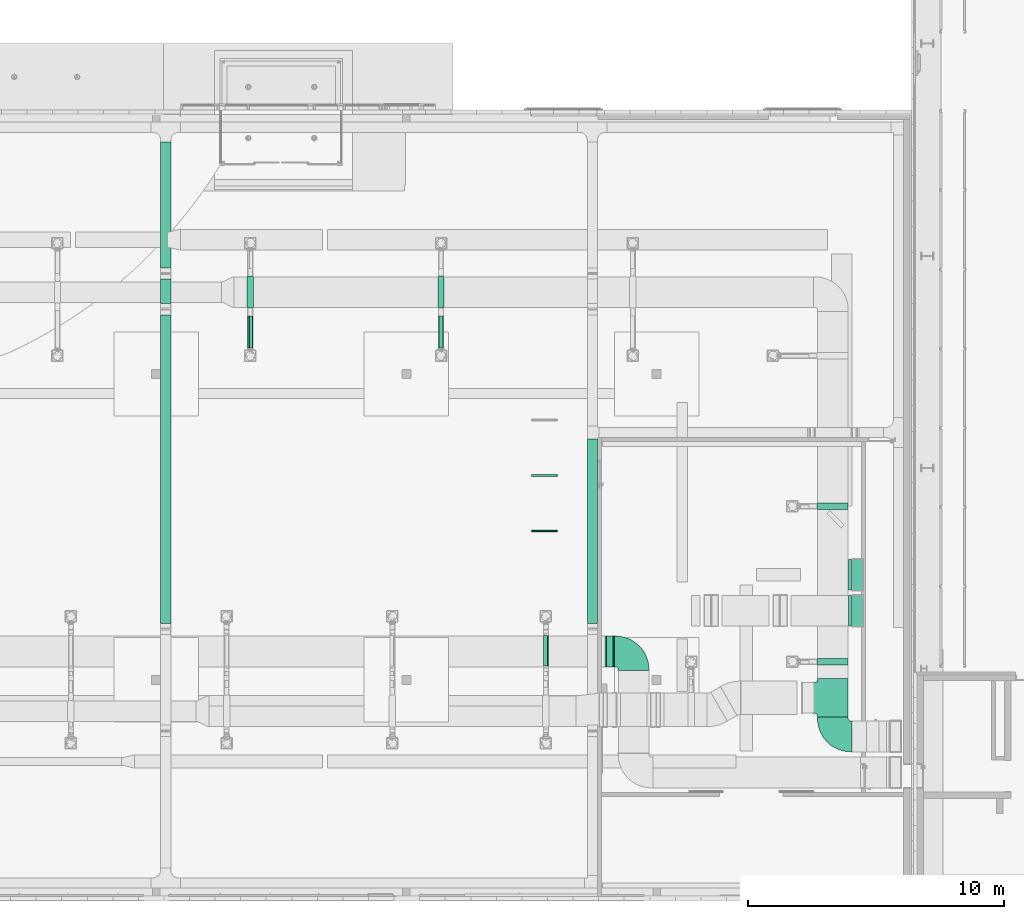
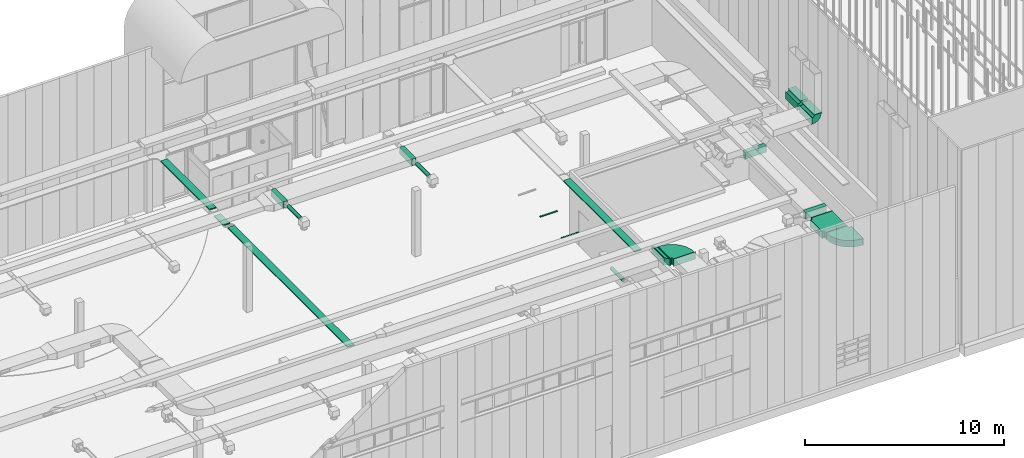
# One storey, part 256 of 302: 10 flow fittings, 7 flow segments, 2 flow terminals.
"""IFC2X3 building model written with IfcOpenShell, lengths in metres."""

from ifc_helpers import new_model, entity, si_unit, converted_unit, derived_unit, direction, frame, frame_2d, origin, origin_2d_with_axis, place, context, subcontext, project, spatial, polyline, circle_curve, parameter, trimmed, segment, composite_curve, rectangle, circle, outline, extrude, source, transform, mapped, material, material_list, type_object, type_shapes, element, save


model = new_model("IFC2X3")

# Units and contexts
model_context = context("Model", 3, precision=1e-05, world=origin(), true_north=direction((6.12303176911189e-17, 1.0)))
body_context = subcontext(model_context, "Body", "Model", "MODEL_VIEW")
ifc_project = project(units=[si_unit("LENGTHUNIT", "METRE"), si_unit("AREAUNIT", "SQUARE_METRE"), si_unit("VOLUMEUNIT", "CUBIC_METRE"), converted_unit("PLANEANGLEUNIT", "DEGREE", entity("IfcRatioMeasure", 0.0174532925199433), si_unit("PLANEANGLEUNIT", "RADIAN"), dimensions=[0, 0, 0, 0, 0, 0, 0]), si_unit("MASSUNIT", "GRAM", prefix="KILO"), derived_unit("MASSDENSITYUNIT", [(si_unit("MASSUNIT", "GRAM", prefix="KILO"), 1), (si_unit("LENGTHUNIT", "METRE"), -3)]), derived_unit("MOMENTOFINERTIAUNIT", [(si_unit("LENGTHUNIT", "METRE"), 4)]), si_unit("TIMEUNIT", "SECOND"), si_unit("FREQUENCYUNIT", "HERTZ"), si_unit("THERMODYNAMICTEMPERATUREUNIT", "DEGREE_CELSIUS"), derived_unit("THERMALTRANSMITTANCEUNIT", [(si_unit("MASSUNIT", "GRAM", prefix="KILO"), 1), (si_unit("THERMODYNAMICTEMPERATUREUNIT", "KELVIN"), -1), (si_unit("TIMEUNIT", "SECOND"), -3)]), derived_unit("VOLUMETRICFLOWRATEUNIT", [(si_unit("LENGTHUNIT", "METRE"), 3), (si_unit("TIMEUNIT", "SECOND"), -1)]), si_unit("ELECTRICCURRENTUNIT", "AMPERE"), si_unit("ELECTRICVOLTAGEUNIT", "VOLT"), si_unit("POWERUNIT", "WATT"), si_unit("FORCEUNIT", "NEWTON", prefix="KILO"), si_unit("ILLUMINANCEUNIT", "LUX"), si_unit("LUMINOUSFLUXUNIT", "LUMEN"), si_unit("LUMINOUSINTENSITYUNIT", "CANDELA"), derived_unit("USERDEFINED", [(si_unit("MASSUNIT", "GRAM", prefix="KILO"), -1), (si_unit("LENGTHUNIT", "METRE"), -2), (si_unit("TIMEUNIT", "SECOND"), 3), (si_unit("LUMINOUSFLUXUNIT", "LUMEN"), 1)]), derived_unit("LINEARVELOCITYUNIT", [(si_unit("LENGTHUNIT", "METRE"), 1), (si_unit("TIMEUNIT", "SECOND"), -1)]), si_unit("PRESSUREUNIT", "PASCAL"), derived_unit("USERDEFINED", [(si_unit("LENGTHUNIT", "METRE"), -2), (si_unit("MASSUNIT", "GRAM", prefix="KILO"), 1), (si_unit("TIMEUNIT", "SECOND"), -2)]), derived_unit("LINEARFORCEUNIT", [(si_unit("MASSUNIT", "GRAM", prefix="KILO"), 1), (si_unit("LENGTHUNIT", "METRE"), 1), (si_unit("TIMEUNIT", "SECOND"), -2), (si_unit("LENGTHUNIT", "METRE"), -1)]), derived_unit("PLANARFORCEUNIT", [(si_unit("MASSUNIT", "GRAM", prefix="KILO"), 1), (si_unit("LENGTHUNIT", "METRE"), 1), (si_unit("TIMEUNIT", "SECOND"), -2), (si_unit("LENGTHUNIT", "METRE"), -2)])], contexts=[model_context])

# Site, building, storey
site_placement = place(None, origin())
site = spatial("IfcSite", under=ifc_project, at=site_placement, Name="Default", CompositionType="ELEMENT")
building_placement = place(site_placement, origin())
building = spatial("IfcBuilding", under=site, at=building_placement, CompositionType="ELEMENT")
storey_placement = place(building_placement, frame((0.0, 0.0, -1.3)))
storey = spatial("IfcBuildingStorey", under=building, at=storey_placement, Name="00_EG", CompositionType="ELEMENT", Elevation=-1.3)

# Flow terminals
ifc_material_1 = material(Name="Zumtobel_Metal_White")
light_fixture_type = type_object("IfcLightFixtureType", Name="Zumtobel TECTON C (Lamp & Reflector):TECTON C LED L1000", PredefinedType="NOTDEFINED", material=ifc_material_1)
shared_shape_1 = source(origin(), body_context, "Body", "SweptSolid", [
    extrude(outline(polyline([(-0.0195125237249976, 0.0249999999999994), (-0.0195125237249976, -0.0250000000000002), (-0.00676730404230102, -0.0250000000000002), (-0.00676730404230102, -0.0300000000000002), (0.00923269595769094, -0.0300000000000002), (0.00923269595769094, -0.0280000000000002), (0.00723269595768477, -0.0270000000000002), (0.00723269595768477, -0.00749999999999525), (0.000232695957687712, 0.0), (0.00723269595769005, 0.0074999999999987), (0.00723269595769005, 0.0269999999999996), (0.00923269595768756, 0.0280000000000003), (0.00923269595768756, 0.0299999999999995), (-0.00676730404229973, 0.0299999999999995), (-0.00676730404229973, 0.0249999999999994), (-0.0195125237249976, 0.0249999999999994)])), frame((-0.574924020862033, -0.218643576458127, -0.51951252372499), z_axis=(-1.0, 0.0, 0.0), x_axis=(0.0, 0.0, -1.0)), (0.0, 0.0, -1.0), 1.0),
])
type_shapes(light_fixture_type, [shared_shape_1])
for number, where in (
    (1, (-221.887546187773, 31.6491312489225, 4.79999999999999)),
    (2, (-221.887546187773, 29.4880464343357, 4.79999999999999)),
):
    element("IfcFlowTerminal", number, at=place(storey_placement, frame(where)), inside=storey, type_object=light_fixture_type, material=ifc_material_1, Name="Zumtobel TECTON C (Lamp & Reflector):TECTON C LED L1000", ObjectType="Zumtobel TECTON C (Lamp & Reflector):TECTON C LED L1000", context=body_context, shape_type="MappedRepresentation", body=[
        mapped(shared_shape_1, transform((0.0, 0.0, 0.0), scale=1.0)),
    ])

# Flow segments
cable_carrier_segment_type = type_object("IfcCableCarrierSegmentType", Name="Kabeltrasse mit Formteilen:Channel Cable Tray", PredefinedType="CABLETRAYSEGMENT")
flow_segment_1_placement = place(storey_placement, origin())
element("IfcFlowSegment", 3, at=flow_segment_1_placement, inside=storey, type_object=cable_carrier_segment_type, Name="Kabeltrasse mit Formteilen:Channel Cable Tray", ObjectType="Kabeltrasse mit Formteilen:Channel Cable Tray", context=body_context, shape_type="SweptSolid", body=[
    extrude(rectangle(XDim=7.19999488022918, YDim=0.399999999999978, at=frame_2d((-2.22044604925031e-15, 0.0), x_axis=(1.0, 0.0))), frame((-220.085111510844, 29.2590915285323, 4.82), z_axis=(0.0, 0.0, 1.0), x_axis=(0.0, 1.0, 0.0)), (0.0, 0.0, 1.0), 0.0600000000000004),
])
flow_segment_2_placement = place(storey_placement, origin())
element("IfcFlowSegment", 4, at=flow_segment_2_placement, inside=storey, type_object=cable_carrier_segment_type, Name="Kabeltrasse mit Formteilen:Channel Cable Tray", ObjectType="Kabeltrasse mit Formteilen:Channel Cable Tray", context=body_context, shape_type="SweptSolid", body=[
    extrude(rectangle(XDim=12.0644111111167, YDim=0.399999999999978, at=frame_2d((2.22044604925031e-15, 0.0), x_axis=(1.0, 0.0))), frame((-236.772611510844, 31.6912996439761, 4.81999999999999), z_axis=(0.0, 0.0, 1.0), x_axis=(0.0, -1.0, 0.0)), (0.0, 0.0, 1.0), 0.0600000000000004),
])
flow_segment_3_placement = place(storey_placement, origin())
element("IfcFlowSegment", 5, at=flow_segment_3_placement, inside=storey, type_object=cable_carrier_segment_type, Name="Kabeltrasse mit Formteilen:Channel Cable Tray", ObjectType="Kabeltrasse mit Formteilen:Channel Cable Tray", context=body_context, shape_type="SweptSolid", body=[
    extrude(rectangle(XDim=4.92184122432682, YDim=0.399999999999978, at=frame_2d((0.0, 1.73194791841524e-14), x_axis=(1.0, 0.0))), frame((-236.772611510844, 42.0171683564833, 4.82), z_axis=(0.0, 0.0, 1.0), x_axis=(0.0, -1.0, 0.0)), (0.0, 0.0, 1.0), 0.0599999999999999),
])
flow_segment_4_placement = place(storey_placement, origin())
element("IfcFlowSegment", 6, at=flow_segment_4_placement, inside=storey, type_object=cable_carrier_segment_type, Name="Kabeltrasse mit Formteilen:Channel Cable Tray", ObjectType="Kabeltrasse mit Formteilen:Channel Cable Tray", context=body_context, shape_type="SweptSolid", body=[
    extrude(rectangle(XDim=0.948780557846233, YDim=0.399999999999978, at=origin_2d_with_axis()), frame((-236.772611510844, 38.6398764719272, 4.69999999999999), z_axis=(0.0, 0.0, 1.0), x_axis=(0.0, -1.0, 0.0)), (0.0, 0.0, 1.0), 0.0600000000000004),
])

# Flow fittings
ifc_material_2 = material(Name="<Unnamed>")
ifc_material_list_1 = material_list([ifc_material_2, ifc_material_2, ifc_material_2, ifc_material_2, ifc_material_2])
ifc_material_list_2 = material_list([ifc_material_2, ifc_material_2, ifc_material_2, ifc_material_2, ifc_material_2])
duct_fitting_type_1 = type_object("IfcDuctFittingType", Name="Bogen rechteck BS:Standard", PredefinedType="NOTDEFINED", material=ifc_material_list_2)
shared_shape_2 = source(origin(), body_context, "Body", "SweptSolid", [
    extrude(rectangle(XDim=0.0550000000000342, YDim=1.2, at=frame_2d((6.76542155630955e-17, -5.55111512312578e-17), x_axis=(1.0, 0.0))), frame((0.0, 0.727499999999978, -0.2), z_axis=(0.0, 0.0, 1.0), x_axis=(0.0, 1.0, 0.0)), (0.0, 0.0, 1.0), 0.4),
    extrude(rectangle(XDim=1.19999999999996, YDim=0.0549999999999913, at=frame_2d((1.11577413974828e-14, 8.93382590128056e-15), x_axis=(1.0, 0.0))), frame((-0.727499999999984, 0.0, -0.2), z_axis=(0.0, 0.0, 1.0), x_axis=(0.0, -1.0, 0.0)), (0.0, 0.0, 1.0), 0.4),
    extrude(outline(composite_curve([segment(polyline([(-0.949999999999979, -0.35), (0.250000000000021, -0.35)]), True, "CONTINUOUS"), segment(trimmed(circle_curve(frame_2d((0.350000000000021, -0.35), x_axis=(0.0, 1.0)), 0.0999999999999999), [parameter(0.0)], [parameter(89.9999999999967)], True, "PARAMETER"), False, "CONTINUOUS"), segment(polyline([(0.350000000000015, -0.25), (0.349999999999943, 0.95)]), True, "CONTINUOUS"), segment(trimmed(circle_curve(frame_2d((0.350000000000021, -0.35), x_axis=(0.0, 1.0)), 1.3), [parameter(0.0)], [parameter(89.9999999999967)], True, "PARAMETER"), True, "CONTINUOUS")], self_intersect=False)), frame((-0.349999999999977, 0.350000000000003, -0.2), z_axis=(0.0, 0.0, 1.0), x_axis=(-1.0, 0.0, 0.0)), (0.0, 0.0, 1.0), 0.4),
    extrude(rectangle(XDim=0.00500000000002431, YDim=1.26, at=frame_2d((9.40740541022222e-15, 0.0), x_axis=(1.0, 0.0))), frame((-0.752499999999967, 0.0, -0.23)), (0.0, 0.0, 1.0), 0.46),
    extrude(rectangle(XDim=0.00500000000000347, YDim=1.26, at=origin_2d_with_axis()), frame((0.0, 0.752499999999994, -0.23), z_axis=(0.0, 0.0, 1.0), x_axis=(0.0, 1.0, 0.0)), (0.0, 0.0, 1.0), 0.46),
])
type_shapes(duct_fitting_type_1, [shared_shape_2])
flow_fitting_1_placement = place(storey_placement, frame((-218.472674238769, 24.5574450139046, 4.91), z_axis=(0.0, 0.0, 1.0), x_axis=(0.0, 1.0, 0.0)))
element("IfcFlowFitting", 7, at=flow_fitting_1_placement, inside=storey, type_object=duct_fitting_type_1, material=ifc_material_list_1, Name="Bogen rechteck BS:Standard", ObjectType="Bogen rechteck BS:Standard", context=body_context, shape_type="MappedRepresentation", body=[
    mapped(shared_shape_2, transform((0.0, 0.0, 0.0), scale=1.0)),
])
flow_fitting_2_placement = place(storey_placement, frame((-210.679540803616, 21.2340213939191, 4.91), z_axis=(0.0, 0.0, 1.0), x_axis=(0.0, -1.0, 0.0)))
element("IfcFlowFitting", 8, at=flow_fitting_2_placement, inside=storey, type_object=duct_fitting_type_1, material=ifc_material_2, Name="Bogen rechteck BS:Standard", ObjectType="Bogen rechteck BS:Standard", context=body_context, shape_type="MappedRepresentation", body=[
    mapped(shared_shape_2, transform((0.0, 0.0, 0.0), scale=1.0)),
])
ifc_material_list_3 = material_list([ifc_material_2, ifc_material_2, ifc_material_2, ifc_material_2, ifc_material_2])
ifc_material_list_4 = material_list([ifc_material_2, ifc_material_2, ifc_material_2, ifc_material_2, ifc_material_2])
duct_fitting_type_2 = type_object("IfcDuctFittingType", Name="Übergang rechteck rechteck US:Standard", PredefinedType="NOTDEFINED", material=ifc_material_list_4)
shared_shape_3 = source(origin(), body_context, "Body", "SweptSolid", [
    extrude(rectangle(XDim=0.0550000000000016, YDim=1.2, at=origin_2d_with_axis()), frame((0.332499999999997, 0.0, -0.0599999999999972)), (0.0, 0.0, 1.0), 0.4),
    extrude(outline(polyline([(-0.0455448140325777, -0.174501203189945), (0.240986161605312, -0.174501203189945), (0.0455448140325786, 0.174501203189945), (-0.240986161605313, 0.174501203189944), (-0.0455448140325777, -0.174501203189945)])), frame((0.180000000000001, -0.6, 0.0699999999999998), z_axis=(0.0, 1.0, 0.0), x_axis=(0.872506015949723, 0.0, 0.488603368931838)), (0.0, 0.0, 1.0), 1.2),
    extrude(rectangle(XDim=0.0550000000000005, YDim=1.2, at=frame_2d((-4.78783679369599e-16, -5.55111512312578e-17), x_axis=(1.0, 0.0))), frame((0.0274999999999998, 0.0, -0.2)), (0.0, 0.0, 1.0), 0.4),
    extrude(rectangle(XDim=0.00500000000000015, YDim=1.26, at=frame_2d((-6.76542155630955e-17, 0.0), x_axis=(1.0, 0.0))), frame((0.357499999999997, 0.0, -0.0899999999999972)), (0.0, 0.0, 1.0), 0.46),
    extrude(rectangle(XDim=0.0050000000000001, YDim=1.26, at=frame_2d((-5.32993787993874e-16, 0.0), x_axis=(1.0, 0.0))), frame((0.00249999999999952, 0.0, -0.23)), (0.0, 0.0, 1.0), 0.46),
])
type_shapes(duct_fitting_type_2, [shared_shape_3])
flow_fitting_3_placement = place(storey_placement, frame((-219.227674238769, 24.5574450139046, 4.91), z_axis=(0.0, 0.0, 1.0), x_axis=(-1.0, 0.0, 0.0)))
element("IfcFlowFitting", 9, at=flow_fitting_3_placement, inside=storey, type_object=duct_fitting_type_2, material=ifc_material_list_3, Name="Übergang rechteck rechteck US:Standard", ObjectType="Übergang rechteck rechteck US:Standard", context=body_context, shape_type="MappedRepresentation", body=[
    mapped(shared_shape_3, transform((0.0, 0.0, 0.0), scale=1.0)),
])
ifc_material_list_5 = material_list([ifc_material_2, ifc_material_2, ifc_material_2, ifc_material_2, ifc_material_2, ifc_material_2, ifc_material_2])
ifc_material_list_6 = material_list([ifc_material_2, ifc_material_2, ifc_material_2, ifc_material_2, ifc_material_2, ifc_material_2, ifc_material_2])
duct_fitting_type_3 = type_object("IfcDuctFittingType", Name="T-Stück rechteck gerade TG:Standard", PredefinedType="NOTDEFINED", material=ifc_material_list_6)
shared_shape_4 = source(origin(), body_context, "Body", "SweptSolid", [
    extrude(rectangle(XDim=0.0500000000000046, YDim=1.2, at=origin_2d_with_axis()), frame((0.0, -0.726, -0.199999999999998), z_axis=(0.0, 0.0, 1.0), x_axis=(0.0, -1.0, 0.0)), (0.0, 0.0, 1.0), 0.4),
    extrude(rectangle(XDim=0.0500000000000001, YDim=1.2, at=frame_2d((6.76542155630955e-17, 0.0), x_axis=(1.0, 0.0))), frame((0.7234, 0.0, -0.199999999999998), z_axis=(0.0, 0.0, 1.0), x_axis=(-1.0, 0.0, 0.0)), (0.0, 0.0, 1.0), 0.4),
    extrude(rectangle(XDim=0.0499999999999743, YDim=1.2, at=origin_2d_with_axis()), frame((-0.726600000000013, 0.0, -0.199999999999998)), (0.0, 0.0, 1.0), 0.4),
    extrude(outline(composite_curve([segment(trimmed(circle_curve(frame_2d((-0.70064, -0.299800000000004), x_axis=(-1.0, 0.0)), 0.1), [parameter(180.0)], [parameter(269.999999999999)], True, "PARAMETER"), False, "CONTINUOUS"), segment(polyline([(-0.60064, -0.299800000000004), (-0.60064, -0.300800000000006)]), True, "CONTINUOUS"), segment(polyline([(-0.60064, -0.300800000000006), (0.59936, -0.300800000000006)]), True, "CONTINUOUS"), segment(polyline([(0.59936, -0.300800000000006), (0.59936, -0.299799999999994)]), True, "CONTINUOUS"), segment(trimmed(circle_curve(frame_2d((0.69936, -0.299799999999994), x_axis=(-1.0, 0.0)), 0.1), [parameter(270.0)], [parameter(0.0)], True, "PARAMETER"), False, "CONTINUOUS"), segment(polyline([(0.699359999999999, -0.199799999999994), (0.70096, -0.199799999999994)]), True, "CONTINUOUS"), segment(polyline([(0.70096, -0.199799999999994), (0.70096, 1.0002)]), True, "CONTINUOUS"), segment(polyline([(0.70096, 1.0002), (-0.699040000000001, 1.0002)]), True, "CONTINUOUS"), segment(polyline([(-0.699040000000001, 1.0002), (-0.699040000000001, -0.199800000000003)]), True, "CONTINUOUS"), segment(polyline([(-0.699040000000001, -0.199800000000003), (-0.70064, -0.199800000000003)]), True, "CONTINUOUS")], self_intersect=False)), frame((-0.000640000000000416, -0.400199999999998, -0.2), z_axis=(0.0, 0.0, -1.0), x_axis=(-1.0, 0.0, 0.0)), (0.0, 0.0, -1.0), 0.4),
    extrude(rectangle(XDim=0.00499999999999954, YDim=1.26, at=frame_2d((6.76542155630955e-17, 0.0), x_axis=(1.0, 0.0))), frame((0.0, -0.753500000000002, -0.229999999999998), z_axis=(0.0, 0.0, 1.0), x_axis=(0.0, 1.0, 0.0)), (0.0, 0.0, 1.0), 0.46),
    extrude(rectangle(XDim=0.00500000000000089, YDim=1.26, at=frame_2d((6.76542155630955e-17, 0.0), x_axis=(1.0, 0.0))), frame((0.750900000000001, 0.0, -0.229999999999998), z_axis=(0.0, 0.0, 1.0), x_axis=(-1.0, 0.0, 0.0)), (0.0, 0.0, 1.0), 0.46),
    extrude(rectangle(XDim=0.00500000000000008, YDim=1.26, at=frame_2d((-6.76542155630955e-17, 0.0), x_axis=(1.0, 0.0))), frame((-0.7541, 0.0, -0.229999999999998), z_axis=(0.0, 0.0, 1.0), x_axis=(-1.0, 0.0, 0.0)), (0.0, 0.0, 1.0), 0.46),
])
type_shapes(duct_fitting_type_3, [shared_shape_4])
flow_fitting_4_placement = place(storey_placement, frame((-210.679540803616, 22.742421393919, 4.91), z_axis=(0.0, 0.0, 1.0), x_axis=(0.0, -1.0, 0.0)))
element("IfcFlowFitting", 10, at=flow_fitting_4_placement, inside=storey, type_object=duct_fitting_type_3, material=ifc_material_list_5, Name="T-Stück rechteck gerade TG:Standard", ObjectType="T-Stück rechteck gerade TG:Standard", context=body_context, shape_type="MappedRepresentation", body=[
    mapped(shared_shape_4, transform((0.0, 0.0, 0.0), scale=1.0)),
])

# Flow segments
duct_segment_type = type_object("IfcDuctSegmentType", Name="Rund:STR_Segment_RND_GS_EA", PredefinedType="NOTDEFINED")
flow_segment_5_placement = place(storey_placement, origin())
element("IfcFlowSegment", 11, at=flow_segment_5_placement, inside=storey, type_object=duct_segment_type, Name="Rund:STR_Segment_RND_GS_EA", ObjectType="Rund:STR_Segment_RND_GS_EA", context=body_context, shape_type="SweptSolid", body=[
    extrude(circle(Radius=0.1, at=frame_2d((0.0, 1.08286712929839e-15), x_axis=(1.0, 0.0))), frame((-233.465645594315, 36.4181484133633, 4.985), z_axis=(0.0, 1.0, 0.0), x_axis=(-1.0, 0.0, 0.0)), (0.0, 0.0, 1.0), 1.26507738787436),
])
flow_segment_6_placement = place(storey_placement, origin())
element("IfcFlowSegment", 12, at=flow_segment_6_placement, inside=storey, type_object=duct_segment_type, Name="Rund:STR_Segment_RND_GS_EA", ObjectType="Rund:STR_Segment_RND_GS_EA", context=body_context, shape_type="SweptSolid", body=[
    extrude(circle(Radius=0.1, at=frame_2d((0.0, 1.08286712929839e-15), x_axis=(1.0, 0.0))), frame((-226.004391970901, 36.4181484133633, 4.985), z_axis=(0.0, 1.0, 0.0), x_axis=(-1.0, 0.0, 0.0)), (0.0, 0.0, 1.0), 1.26507738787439),
])
flow_segment_7_placement = place(storey_placement, origin())
element("IfcFlowSegment", 13, at=flow_segment_7_placement, inside=storey, type_object=duct_segment_type, Name="Rund:STR_Segment_RND_GS_EA", ObjectType="Rund:STR_Segment_RND_GS_EA", context=body_context, shape_type="SweptSolid", body=[
    extrude(circle(Radius=0.1, at=origin_2d_with_axis()), frame((-221.905155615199, 23.984658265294, 4.71999999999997), z_axis=(0.0, 1.0, 0.0), x_axis=(-1.0, 0.0, 0.0)), (0.0, 0.0, 1.0), 1.20262234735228),
])

# Flow fittings
duct_fitting_type_4 = type_object("IfcDuctFittingType", Name="STR_RCT_Cross:STR_Cross_RCT_GS_RA", PredefinedType="NOTDEFINED", material=ifc_material_2)
shared_shape_5 = source(origin(), body_context, "Body", "SweptSolid", [
    extrude(outline(polyline([(-0.624999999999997, 0.0999999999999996), (-0.624999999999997, -0.1), (-0.600000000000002, -0.1), (-0.600000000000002, -0.124999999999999), (0.599999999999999, -0.124999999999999), (0.599999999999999, -0.1), (0.625000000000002, -0.1), (0.625000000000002, 0.0999999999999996), (0.599999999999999, 0.0999999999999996), (0.599999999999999, 0.125000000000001), (-0.600000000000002, 0.125000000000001), (-0.600000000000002, 0.0999999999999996), (-0.624999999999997, 0.0999999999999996)])), frame((0.0, 0.0, -0.200000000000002), z_axis=(0.0, 0.0, -1.0), x_axis=(0.0, 1.0, 0.0)), (0.0, 0.0, -1.0), 0.4),
])
type_shapes(duct_fitting_type_4, [shared_shape_5])
for number, where, z_axis, x_axis in (
    (14, (-233.465645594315, 38.6082258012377, 4.91), (0.0, 0.0, 1.0), (-1.0, 0.0, 0.0)),
    (15, (-226.004391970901, 38.6082258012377, 4.91), (0.0, 0.0, 1.0), (-1.0, 0.0, 0.0)),
):
    element("IfcFlowFitting", number, at=place(storey_placement, frame(where, z_axis=z_axis, x_axis=x_axis)), inside=storey, type_object=duct_fitting_type_4, material=ifc_material_2, Name="STR_RCT_Cross:STR_Cross_RCT_GS_RA", ObjectType="STR_RCT_Cross:STR_Cross_RCT_GS_RA", context=body_context, shape_type="MappedRepresentation", body=[
        mapped(shared_shape_5, transform((0.0, 0.0, 0.0), scale=1.0)),
    ])
duct_fitting_type_5 = type_object("IfcDuctFittingType", Name="STR_RCT_Tee:STR_Tee_RCT_GS_RA", PredefinedType="NOTDEFINED", material=ifc_material_2)
shared_shape_6 = source(origin(), body_context, "Body", "SweptSolid", [
    extrude(outline(polyline([(-0.125, 0.29375), (-0.125, -0.90625), (0.125, -0.90625), (0.125, 0.29375), (0.0999999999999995, 0.29375), (0.0999999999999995, 0.318749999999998), (-0.100000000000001, 0.318749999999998), (-0.100000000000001, 0.29375), (-0.125, 0.29375)])), frame((0.0, -0.306250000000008, -0.200000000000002), z_axis=(0.0, 0.0, -1.0), x_axis=(1.0, 0.0, 0.0)), (0.0, 0.0, -1.0), 0.4),
])
type_shapes(duct_fitting_type_5, [shared_shape_6])
for number, where, z_axis, x_axis in (
    (16, (-210.679540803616, 30.2373330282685, 4.91), (0.0, 0.0, 1.0), (0.0, -1.0, 0.0)),
    (17, (-210.679540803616, 24.1552444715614, 4.91), (0.0, 0.0, 1.0), (0.0, -1.0, 0.0)),
):
    element("IfcFlowFitting", number, at=place(storey_placement, frame(where, z_axis=z_axis, x_axis=x_axis)), inside=storey, type_object=duct_fitting_type_5, material=ifc_material_2, Name="STR_RCT_Tee:STR_Tee_RCT_GS_RA", ObjectType="STR_RCT_Tee:STR_Tee_RCT_GS_RA", context=body_context, shape_type="MappedRepresentation", body=[
        mapped(shared_shape_6, transform((0.0, 0.0, 0.0), scale=1.0)),
    ])
ifc_material_list_7 = material_list([ifc_material_2, ifc_material_2, ifc_material_2, ifc_material_2, ifc_material_2])
duct_fitting_type_6 = type_object("IfcDuctFittingType", Name="Bogen rechteck BS:Standard", PredefinedType="NOTDEFINED", material=ifc_material_list_7)
shared_shape_7 = source(origin(), body_context, "Body", "SweptSolid", [
    extrude(rectangle(XDim=0.0550000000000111, YDim=0.4, at=frame_2d((3.46944695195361e-17, -2.77555756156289e-17), x_axis=(1.0, 0.0))), frame((0.0, 0.327499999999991, -0.6), z_axis=(0.0, 0.0, 1.0), x_axis=(0.0, 1.0, 0.0)), (0.0, 0.0, 1.0), 1.2),
    extrude(rectangle(XDim=0.399999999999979, YDim=0.0549999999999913, at=frame_2d((5.21804821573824e-15, 2.96117297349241e-15), x_axis=(1.0, 0.0))), frame((-0.327499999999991, 0.0, -0.6), z_axis=(0.0, 0.0, 1.0), x_axis=(0.0, -1.0, 0.0)), (0.0, 0.0, 1.0), 1.2),
    extrude(outline(composite_curve([segment(polyline([(-0.349999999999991, -0.15), (0.050000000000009, -0.15)]), True, "CONTINUOUS"), segment(trimmed(circle_curve(frame_2d((0.150000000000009, -0.15), x_axis=(0.0, 1.0)), 0.1), [parameter(0.0)], [parameter(89.9999999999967)], True, "PARAMETER"), False, "CONTINUOUS"), segment(polyline([(0.150000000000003, -0.0499999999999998), (0.149999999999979, 0.35)]), True, "CONTINUOUS"), segment(trimmed(circle_curve(frame_2d((0.150000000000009, -0.15), x_axis=(0.0, 1.0)), 0.5), [parameter(0.0)], [parameter(89.9999999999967)], True, "PARAMETER"), True, "CONTINUOUS")], self_intersect=False)), frame((-0.149999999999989, 0.150000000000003, -0.6), z_axis=(0.0, 0.0, 1.0), x_axis=(-1.0, 0.0, 0.0)), (0.0, 0.0, 1.0), 1.2),
    extrude(rectangle(XDim=0.00500000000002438, YDim=0.46, at=frame_2d((3.4178389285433e-15, 1.38777878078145e-17), x_axis=(1.0, 0.0))), frame((-0.352499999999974, 0.0, -0.63)), (0.0, 0.0, 1.0), 1.26),
    extrude(rectangle(XDim=0.0050000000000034, YDim=0.46, at=origin_2d_with_axis()), frame((0.0, 0.352499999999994, -0.63), z_axis=(0.0, 0.0, 1.0), x_axis=(0.0, 1.0, 0.0)), (0.0, 0.0, 1.0), 1.26),
])
type_shapes(duct_fitting_type_6, [shared_shape_7])
for number, where, z_axis, x_axis, name in (
    (18, (-209.71393296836, 26.1510869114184, 9.37999999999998), (0.0, 1.0, 0.0), (0.0, 0.0, -1.0), "Bogen rechteck BS:Standard"),
    (19, (-209.71393296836, 27.5551452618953, 9.38), (0.0, 1.0, 0.0), (0.0, 0.0, -1.0), "Bogen rechteck BS:Standard"),
):
    element("IfcFlowFitting", number, at=place(storey_placement, frame(where, z_axis=z_axis, x_axis=x_axis)), inside=storey, type_object=duct_fitting_type_6, material=ifc_material_2, Name=name, ObjectType="Bogen rechteck BS:Standard", context=body_context, shape_type="MappedRepresentation", body=[
        mapped(shared_shape_7, transform((0.0, 0.0, 0.0), scale=1.0)),
    ])

save(model, "model.ifc")
